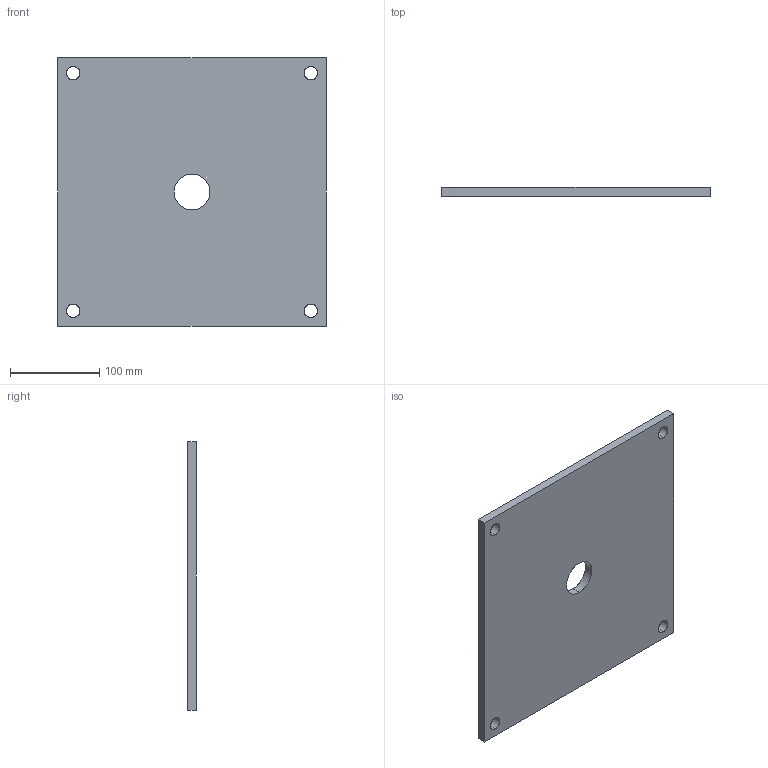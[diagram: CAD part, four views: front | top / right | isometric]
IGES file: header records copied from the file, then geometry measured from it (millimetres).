
Start section: SolidWorks IGES file using analytic representation for surfaces
Global section: file name: C:\Users\sebas\Documents\SOLIDWORKSComposer\TESIS\3. Dosificadora\IGS\Base.IGS; native system: SolidWorks 2022; preprocessor: SolidWorks 2022; author: sebas; date: 220619.065630; units: millimetre
Bounding box: 300 x 10 x 300 mm (x, y, z)
Surface area: 191214.6 mm2 (no closed solid volume)
Topology: 0 solids, 0 shells, 16 faces, 384 edges, 384 vertices
Faces by surface type: revolution 10, bspline 6
